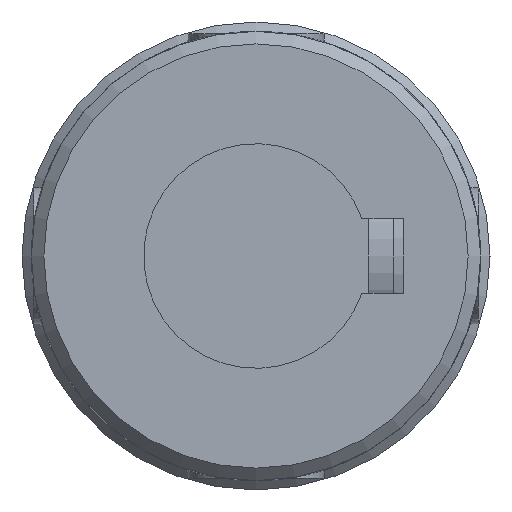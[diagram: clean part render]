
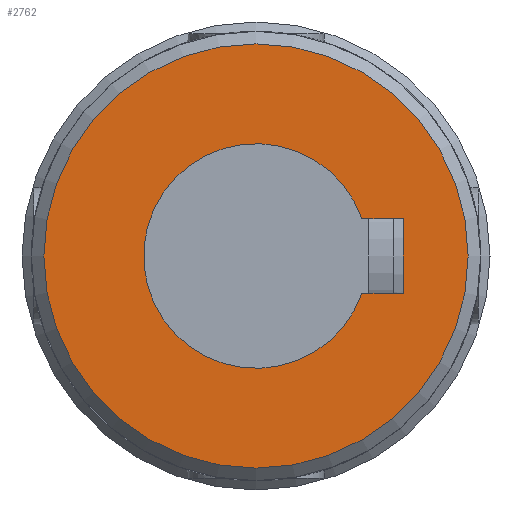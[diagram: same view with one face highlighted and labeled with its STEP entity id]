
A CAD part, left-side view. The second image highlights one B-rep face of the part: STEP entity #2762.
In plain terms, the highlighted planar face has unit normal (-1, 0, 0) as drawn and (0, -1, 0) by its records, which use the part's own axes.
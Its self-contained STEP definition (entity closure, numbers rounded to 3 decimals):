
#75=FACE_BOUND('',#468,.T.);
#286=FACE_OUTER_BOUND('',#467,.T.);
#467=EDGE_LOOP('',(#1915));
#468=EDGE_LOOP('',(#1916,#1917,#1918,#1919));
#706=CIRCLE('',#2939,9.);
#712=CIRCLE('',#2950,17.);
#854=LINE('',#4102,#1007);
#858=LINE('',#4129,#1011);
#860=LINE('',#4137,#1013);
#1007=VECTOR('',#3277,3.315);
#1011=VECTOR('',#3289,6.);
#1013=VECTOR('',#3293,3.315);
#1161=VERTEX_POINT('',#4099);
#1162=VERTEX_POINT('',#4101);
#1165=VERTEX_POINT('',#4111);
#1167=VERTEX_POINT('',#4127);
#1176=VERTEX_POINT('',#4214);
#1447=EDGE_CURVE('',#1162,#1161,#854,.T.);
#1451=EDGE_CURVE('',#1165,#1162,#706,.T.);
#1455=EDGE_CURVE('',#1161,#1167,#858,.T.);
#1458=EDGE_CURVE('',#1167,#1165,#860,.T.);
#1468=EDGE_CURVE('',#1176,#1176,#712,.T.);
#1915=ORIENTED_EDGE('',*,*,#1468,.F.);
#1916=ORIENTED_EDGE('',*,*,#1447,.T.);
#1917=ORIENTED_EDGE('',*,*,#1455,.T.);
#1918=ORIENTED_EDGE('',*,*,#1458,.T.);
#1919=ORIENTED_EDGE('',*,*,#1451,.T.);
#2677=PLANE('',#2952);
#2762=ADVANCED_FACE('',(#286,#75),#2677,.F.);
#2939=AXIS2_PLACEMENT_3D('',#4112,#3283,#3284);
#2950=AXIS2_PLACEMENT_3D('',#4215,#3310,#3311);
#2952=AXIS2_PLACEMENT_3D('',#4439,#3318,#3319);
#3277=DIRECTION('',(0.,0.,-1.));
#3283=DIRECTION('center_axis',(0.,1.,0.));
#3284=DIRECTION('ref_axis',(0.333,0.,-0.943));
#3289=DIRECTION('',(-1.,0.,0.));
#3293=DIRECTION('',(0.,0.,1.));
#3310=DIRECTION('center_axis',(0.,1.,0.));
#3311=DIRECTION('ref_axis',(1.,0.,0.));
#3318=DIRECTION('center_axis',(0.,1.,0.));
#3319=DIRECTION('ref_axis',(0.,0.,1.));
#4099=CARTESIAN_POINT('',(3.,-45.5,-11.8));
#4101=CARTESIAN_POINT('',(3.,-45.5,-8.485));
#4102=CARTESIAN_POINT('',(3.,-45.5,-4.243));
#4111=CARTESIAN_POINT('',(-3.,-45.5,-8.485));
#4112=CARTESIAN_POINT('Origin',(0.,-45.5,0.));
#4127=CARTESIAN_POINT('',(-3.,-45.5,-11.8));
#4129=CARTESIAN_POINT('',(1.5,-45.5,-11.8));
#4137=CARTESIAN_POINT('',(-3.,-45.5,-5.9));
#4214=CARTESIAN_POINT('',(-17.,-45.5,0.));
#4215=CARTESIAN_POINT('Origin',(0.,-45.5,0.));
#4439=CARTESIAN_POINT('Origin',(0.,-45.5,0.));
